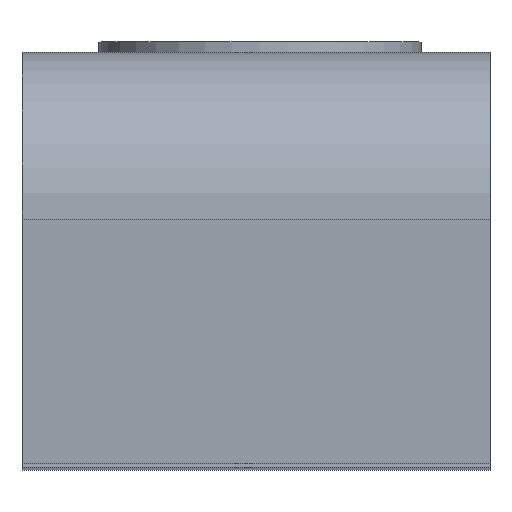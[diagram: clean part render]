
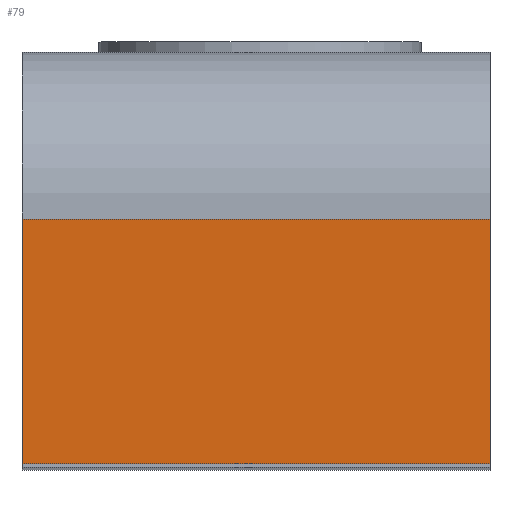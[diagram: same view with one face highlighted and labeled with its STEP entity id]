
A CAD part, top view. The second image highlights one B-rep face of the part: STEP entity #79.
In plain terms, the highlighted planar face has unit normal (0, -0.035, 0.999).
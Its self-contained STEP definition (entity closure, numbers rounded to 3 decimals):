
#9 = CARTESIAN_POINT ( 'NONE',  ( 17.4, -15.3, 69.466 ) ) ;
#31 = DIRECTION ( 'NONE',  ( -1., 0., 0. ) ) ;
#56 = EDGE_CURVE ( 'NONE', #418, #144, #477, .T. ) ;
#74 = CARTESIAN_POINT ( 'NONE',  ( 17.4, -6.209, 69.783 ) ) ;
#79 = ADVANCED_FACE ( 'NONE', ( #181 ), #229, .F. ) ;
#104 = AXIS2_PLACEMENT_3D ( 'NONE', #278, #481, #114 ) ;
#114 = DIRECTION ( 'NONE',  ( 0., 0.999, 0.035 ) ) ;
#130 = CARTESIAN_POINT ( 'NONE',  ( 17.4, -6.209, 69.783 ) ) ;
#131 = CARTESIAN_POINT ( 'NONE',  ( 17.4, -15.3, 69.466 ) ) ;
#136 = EDGE_CURVE ( 'NONE', #636, #322, #501, .T. ) ;
#142 = DIRECTION ( 'NONE',  ( -1., 0., 0. ) ) ;
#144 = VERTEX_POINT ( 'NONE', #146 ) ;
#146 = CARTESIAN_POINT ( 'NONE',  ( 0., -6.209, 69.783 ) ) ;
#159 = ORIENTED_EDGE ( 'NONE', *, *, #207, .T. ) ;
#163 = VECTOR ( 'NONE', #31, 1000. ) ;
#176 = VECTOR ( 'NONE', #658, 1000. ) ;
#177 = EDGE_LOOP ( 'NONE', ( #251, #186, #159, #564 ) ) ;
#181 = FACE_OUTER_BOUND ( 'NONE', #177, .T. ) ;
#186 = ORIENTED_EDGE ( 'NONE', *, *, #56, .T. ) ;
#207 = EDGE_CURVE ( 'NONE', #144, #322, #554, .T. ) ;
#229 = PLANE ( 'NONE',  #104 ) ;
#251 = ORIENTED_EDGE ( 'NONE', *, *, #294, .F. ) ;
#259 = VECTOR ( 'NONE', #142, 1000. ) ;
#278 = CARTESIAN_POINT ( 'NONE',  ( 17.4, -15.3, 69.466 ) ) ;
#294 = EDGE_CURVE ( 'NONE', #418, #636, #383, .T. ) ;
#321 = DIRECTION ( 'NONE',  ( 0., -0.999, -0.035 ) ) ;
#322 = VERTEX_POINT ( 'NONE', #530 ) ;
#383 = LINE ( 'NONE', #131, #584 ) ;
#418 = VERTEX_POINT ( 'NONE', #130 ) ;
#446 = CARTESIAN_POINT ( 'NONE',  ( 0., -15.3, 69.466 ) ) ;
#477 = LINE ( 'NONE', #74, #163 ) ;
#481 = DIRECTION ( 'NONE',  ( 0., 0.035, -0.999 ) ) ;
#501 = LINE ( 'NONE', #599, #259 ) ;
#530 = CARTESIAN_POINT ( 'NONE',  ( 0., -15.3, 69.466 ) ) ;
#554 = LINE ( 'NONE', #446, #176 ) ;
#564 = ORIENTED_EDGE ( 'NONE', *, *, #136, .F. ) ;
#584 = VECTOR ( 'NONE', #321, 1000. ) ;
#599 = CARTESIAN_POINT ( 'NONE',  ( 17.4, -15.3, 69.466 ) ) ;
#636 = VERTEX_POINT ( 'NONE', #9 ) ;
#658 = DIRECTION ( 'NONE',  ( 0., -0.999, -0.035 ) ) ;
